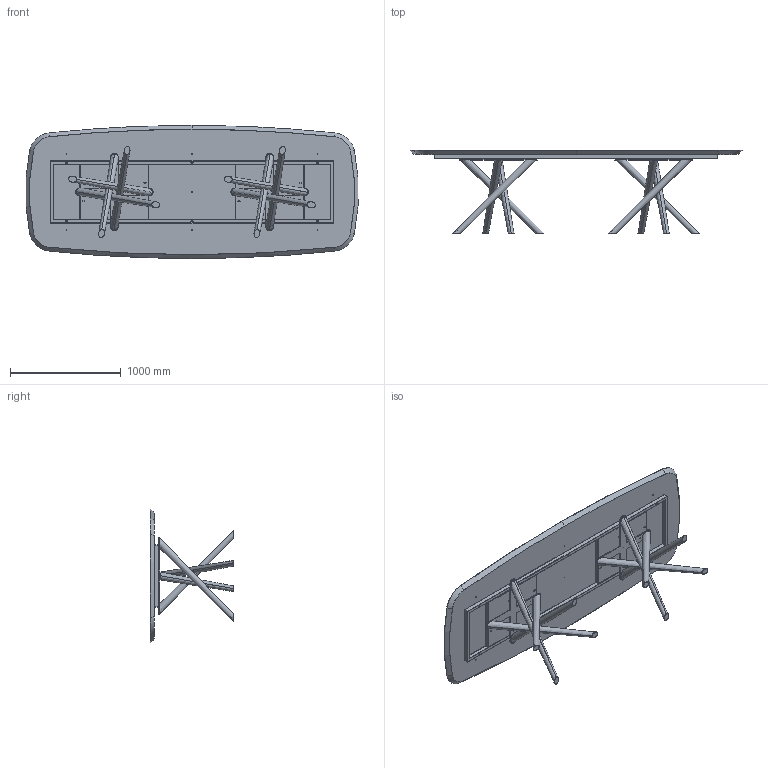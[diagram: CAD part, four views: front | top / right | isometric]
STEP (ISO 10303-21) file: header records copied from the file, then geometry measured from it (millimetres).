
FILE_DESCRIPTION (( 'STEP AP203' ), '1' );
FILE_NAME ('BA44W.STEP', '2024-08-08T05:54:20', ( '' ), ( '' ), 'SwSTEP 2.0', 'SolidWorks 2022', '' );
FILE_SCHEMA (( 'CONFIG_CONTROL_DESIGN' ));
Length unit declared in the file: millimetre
Products named in the file (9): TTAV03-06-TELAIO UNIVERSALE X TAVOLI 300-340cm; W4XCMXX-00-Piani Sagomati legno_3000 x 1200; BAB000000-00-BALY BASE GREZZA; BAB000000_02-00-basamento pali conificati; BA44W; TTAV03_01-06-RING TUBO TELAIO UNIVERSALE X TAVOLI 300-340cm; Parte5^BAB000000-00-BALY BASE GREZZA; TTAV03_02-06-VASSOIO IRRIGIDIMENTO TELAIO UNIVERSALE RETTANGOLARE; BAB000000_01-00-Croce Superiore baly
Assembly tree (10 placements, depth 3):
  BA44W
    W4XCMXX-00-Piani Sagomati legno_3000 x 1200
    TTAV03-06-TELAIO UNIVERSALE X TAVOLI 300-340cm
      TTAV03_01-06-RING TUBO TELAIO UNIVERSALE X TAVOLI 300-340cm
      TTAV03_02-06-VASSOIO IRRIGIDIMENTO TELAIO UNIVERSALE RETTANGOLARE  x2
    BAB000000-00-BALY BASE GREZZA  x2
      BAB000000_01-00-Croce Superiore baly
      BAB000000_02-00-basamento pali conificati
      Parte5^BAB000000-00-BALY BASE GREZZA
Bounding box: 2991.72 x 753 x 1200 mm (x, y, z)
Volume: 132227598.3 mm3; surface area: 13245411.3 mm2
Topology: 22 solids, 22 shells, 655 faces, 1604 edges, 968 vertices
Faces by surface type: plane 270, cylinder 241, cone 111, bspline 16, torus 9, sphere 8
Entity records: 15140 total; most frequent: CARTESIAN_POINT 3846, DIRECTION 2207, ORIENTED_EDGE 2066, EDGE_CURVE 1033, AXIS2_PLACEMENT_3D 803, VERTEX_POINT 642, VECTOR 601, LINE 601
